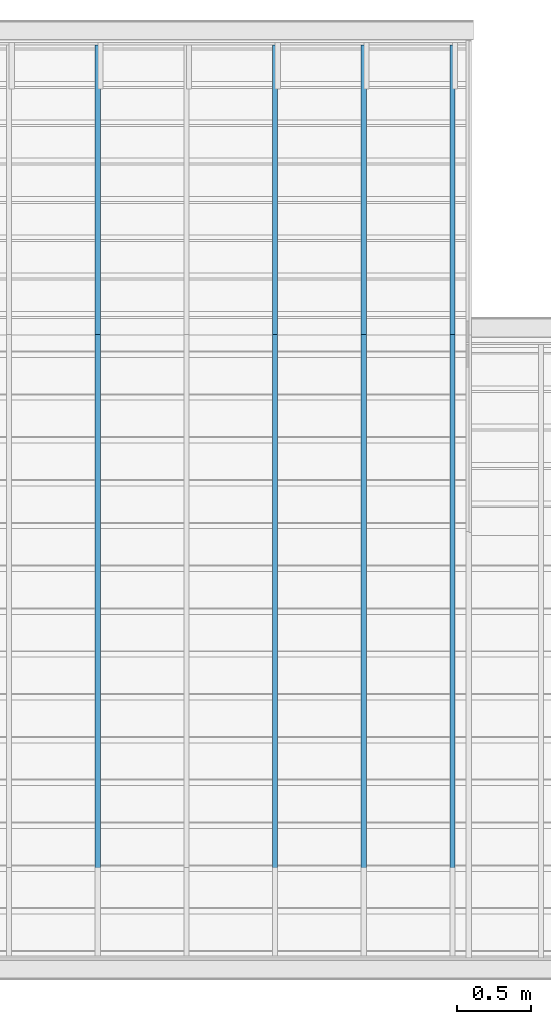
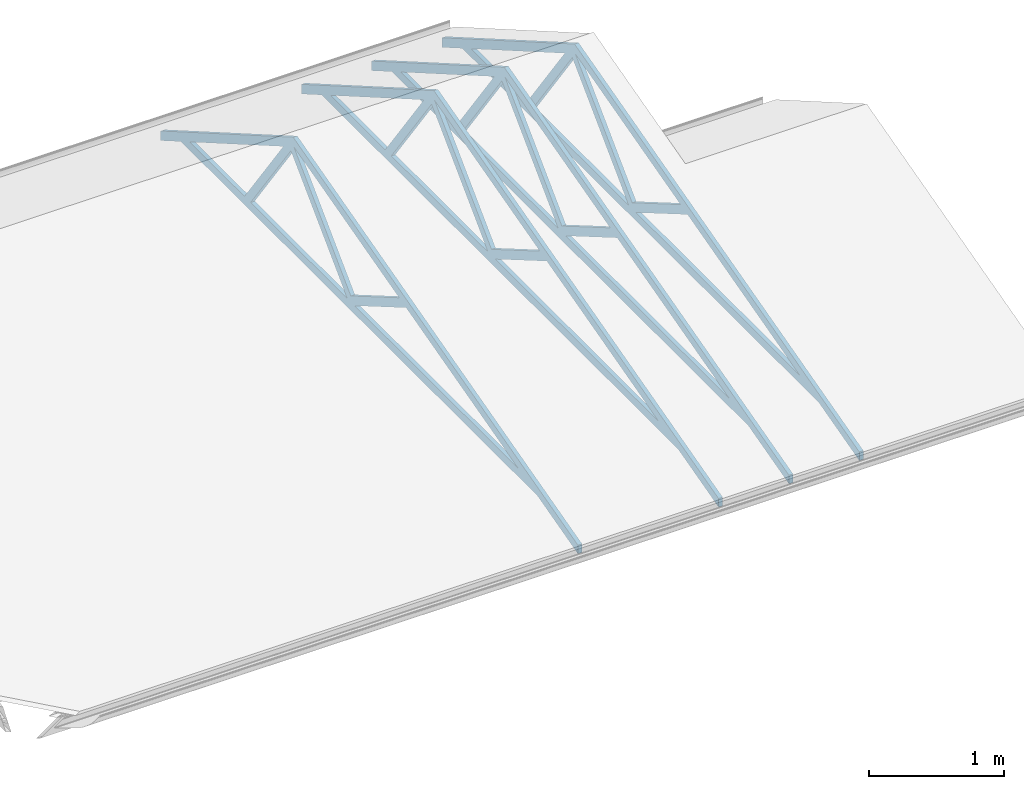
# One storey, part 8 of 12: 4 slabs.
"""IFC2X3 building model written with IfcOpenShell, lengths in millimetres."""

from ifc_helpers import new_model, entity, si_unit, converted_unit, money_unit, direction, frame, origin_with_axes, place, context, subcontext, project, spatial, faceted_brep, material, type_object, element, save


model = new_model("IFC2X3")

# Units and contexts
model_context = context("Model", 3, precision=1e-05, world=origin_with_axes(), true_north=direction((0.0, 1.0)))
body_context = subcontext(model_context, "Body", "Model", "MODEL_VIEW")
ifc_project = project(units=[si_unit("LENGTHUNIT", "METRE", prefix="MILLI"), si_unit("AREAUNIT", "SQUARE_METRE"), si_unit("VOLUMEUNIT", "CUBIC_METRE"), converted_unit("PLANEANGLEUNIT", "DEGREE", entity("IfcPlaneAngleMeasure", 0.0174532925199), si_unit("PLANEANGLEUNIT", "RADIAN"), dimensions=[0, 0, 0, 0, 0, 0, 0]), si_unit("SOLIDANGLEUNIT", "STERADIAN"), money_unit("AUD"), si_unit("TIMEUNIT", "SECOND"), si_unit("MASSUNIT", "GRAM"), si_unit("THERMODYNAMICTEMPERATUREUNIT", "DEGREE_CELSIUS"), si_unit("LUMINOUSINTENSITYUNIT", "LUMEN")], contexts=[model_context])

# Site, building, storey
site_placement = place(None, origin_with_axes())
site = spatial("IfcSite", under=ifc_project, at=site_placement, Name="Lot 1. East Hills", CompositionType="ELEMENT")
building_placement = place(site_placement, origin_with_axes())
building = spatial("IfcBuilding", under=site, at=building_placement, Name="Proposed Units 7 & 8", CompositionType="ELEMENT")
storey_placement = place(building_placement, frame((0.0, 0.0, 8395.0), z_axis=(0.0, 0.0, 1.0), x_axis=(1.0, 0.0, 0.0)))
storey = spatial("IfcBuildingStorey", under=building, at=storey_placement, Name="Roof", CompositionType="ELEMENT", Elevation=8395.0)

# Slabs
ifc_material = material(Name="50 %")
slab_type = type_object("IfcSlabType", Name="Roof Trust large", PredefinedType="NOTDEFINED")
slab_1_placement = place(storey_placement, frame((15755.0, -3.11548540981, 0.0), z_axis=(0.0, 0.0, 1.0), x_axis=(-1.0, 0.0, 0.0)))
element("IfcSlab", 1, at=slab_1_placement, inside=storey, type_object=slab_type, material=ifc_material, Name="TRUST_01 - Roof Trust large - object -", PredefinedType="ROOF", context=body_context, shape_type="Brep", body=[
    faceted_brep([(0.0, 600.020035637, -160.773638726), (0.0, 600.020035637, -160.673638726), (35.0, 600.020035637, -160.673638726), (35.0, 600.020035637, -160.773638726), (0.0, 599.923443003, -160.747757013), (0.0, 0.0966282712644, -0.0259204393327), (0.0, 3.56373446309e-05, -3.87262417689e-05), (0.0, -0.0999643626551, -3.87262417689e-05), (0.0, -5264.89996436, -3.87262399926e-05), (0.0, -5264.99996436, -3.87262399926e-05), (0.0, -5265.08656691, -0.050038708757), (0.0, -5564.91336181, -173.155038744), (0.0, -5564.99996436, -173.205038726), (0.0, -5564.99996436, -173.105038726), (0.0, -5564.99996436, -86.7025387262), (0.0, -5564.99996436, -86.6025387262), (0.0, -5564.91336181, -86.552538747), (0.0, -3606.74656692, 1043.99496129), (0.0, -3606.65996436, 1044.04496127), (0.0, -3606.56337176, 1044.01907945), (0.0, 599.923443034, -83.102056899), (0.0, 600.020035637, -83.1279387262), (0.0, 600.020035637, -83.2279387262), (0.0, -279.899964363, 74.9999612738), (0.0, -279.996556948, 75.0258431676), (0.0, -1937.88337178, 519.25507938), (0.0, -1937.97996436, 519.280961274), (0.0, -1938.06635104, 519.230589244), (0.0, -2699.82357768, 75.0503333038), (0.0, -2699.90996436, 74.9999612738), (0.0, -2699.80996436, 74.9999612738), (0.0, -279.999964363, 74.9999612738), (0.0, -2039.93996436, 546.601961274), (0.0, -2040.03655692, 546.627843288), (0.0, -3595.96337181, 963.539079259), (0.0, -3596.05996436, 963.564961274), (0.0, -3595.98895391, 963.494551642), (0.0, -2755.09097481, 129.711370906), (0.0, -2755.01996436, 129.640961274), (0.0, -2754.93357759, 129.691333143), (0.0, -2040.02635114, 546.551589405), (0.0, -2806.42996436, 74.9999612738), (0.0, -2806.50097476, 75.0703709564), (0.0, -3640.32895396, 901.844551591), (0.0, -3640.39996436, 901.914961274), (0.0, -3640.45835547, 901.833779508), (0.0, -4235.11157326, 75.0811430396), (0.0, -4235.16996436, 74.9999612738), (0.0, -4235.06996436, 74.9999612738), (0.0, -2806.52996436, 74.9999612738), (0.0, -3751.98996436, 873.534961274), (0.0, -3752.07656695, 873.48496135), (0.0, -5135.00936178, 75.0499611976), (0.0, -5135.09596436, 74.9999612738), (0.0, -5134.99596436, 74.9999612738), (0.0, -4326.44996436, 74.9999612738), (0.0, -4326.34996436, 74.9999612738), (0.0, -4326.29157308, 75.0811429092), (0.0, -3752.04835565, 873.453779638), (35.0, 600.020035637, -83.2279387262), (35.0, 600.020035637, -83.1279387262), (35.0, 599.923443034, -83.102056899), (35.0, -3606.56337176, 1044.01907945), (35.0, -3606.65996436, 1044.04496127), (35.0, -3606.74656692, 1043.99496129), (35.0, -5564.91336181, -86.552538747), (35.0, -5564.99996436, -86.6025387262), (35.0, -5564.99996436, -86.7025387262), (35.0, -5564.99996436, -173.105038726), (35.0, -5564.99996436, -173.205038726), (35.0, -5564.91336181, -173.155038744), (35.0, -5265.08656691, -0.050038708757), (35.0, -5264.99996436, -3.87262399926e-05), (35.0, -5264.89996436, -3.87262399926e-05), (35.0, -0.0999643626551, -3.87262417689e-05), (35.0, 3.56373446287e-05, -3.87262417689e-05), (35.0, 0.0966282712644, -0.0259204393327), (35.0, 599.923443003, -160.747757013), (35.0, -279.899964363, 74.9999612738), (35.0, -279.999964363, 74.9999612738), (35.0, -2699.80996436, 74.9999612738), (35.0, -2699.90996436, 74.9999612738), (35.0, -2699.82357768, 75.0503333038), (35.0, -1938.06635104, 519.230589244), (35.0, -1937.97996436, 519.280961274), (35.0, -1937.88337178, 519.25507938), (35.0, -279.996556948, 75.0258431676), (35.0, -2039.93996436, 546.601961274), (35.0, -2040.02635114, 546.551589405), (35.0, -2754.93357759, 129.691333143), (35.0, -2755.01996436, 129.640961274), (35.0, -2755.09097481, 129.711370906), (35.0, -3595.98895391, 963.494551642), (35.0, -3596.05996436, 963.564961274), (35.0, -3595.96337181, 963.539079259), (35.0, -2040.03655692, 546.627843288), (35.0, -2806.42996436, 74.9999612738), (35.0, -2806.52996436, 74.9999612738), (35.0, -4235.06996436, 74.9999612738), (35.0, -4235.16996436, 74.9999612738), (35.0, -4235.11157326, 75.0811430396), (35.0, -3640.45835547, 901.833779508), (35.0, -3640.39996436, 901.914961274), (35.0, -3640.32895396, 901.844551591), (35.0, -2806.50097476, 75.0703709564), (35.0, -3751.98996436, 873.534961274), (35.0, -3752.04835565, 873.453779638), (35.0, -4326.29157308, 75.0811429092), (35.0, -4326.34996436, 74.9999612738), (35.0, -4326.44996436, 74.9999612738), (35.0, -5134.99596436, 74.9999612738), (35.0, -5135.09596436, 74.9999612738), (35.0, -5135.00936178, 75.0499611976), (35.0, -3752.07656695, 873.48496135)], [[[0, 1, 2, 3]], [[0, 4, 5, 6, 7, 8, 9, 10, 11, 12, 13, 14, 15, 16, 17, 18, 19, 20, 21, 22, 1], [23, 24, 25, 26, 27, 28, 29, 30, 31], [32, 33, 34, 35, 36, 37, 38, 39, 40], [41, 42, 43, 44, 45, 46, 47, 48, 49], [50, 51, 52, 53, 54, 55, 56, 57, 58]], [[1, 22, 59, 2]], [[3, 2, 59, 60, 61, 62, 63, 64, 65, 66, 67, 68, 69, 70, 71, 72, 73, 74, 75, 76, 77], [78, 79, 80, 81, 82, 83, 84, 85, 86], [87, 88, 89, 90, 91, 92, 93, 94, 95], [96, 97, 98, 99, 100, 101, 102, 103, 104], [105, 106, 107, 108, 109, 110, 111, 112, 113]], [[4, 0, 3, 77]], [[5, 4, 77, 76]], [[6, 5, 76, 75]], [[7, 6, 75, 74]], [[8, 7, 74, 73]], [[9, 8, 73, 72]], [[10, 9, 72, 71]], [[11, 10, 71, 70]], [[12, 11, 70, 69]], [[13, 12, 69, 68]], [[14, 13, 68, 67]], [[15, 14, 67, 66]], [[16, 15, 66, 65]], [[17, 16, 65, 64]], [[18, 17, 64, 63]], [[19, 18, 63, 62]], [[20, 19, 62, 61]], [[21, 20, 61, 60]], [[22, 21, 60, 59]], [[24, 23, 78, 86]], [[25, 24, 86, 85]], [[26, 25, 85, 84]], [[27, 26, 84, 83]], [[28, 27, 83, 82]], [[29, 28, 82, 81]], [[30, 29, 81, 80]], [[31, 30, 80, 79]], [[23, 31, 79, 78]], [[33, 32, 87, 95]], [[34, 33, 95, 94]], [[35, 34, 94, 93]], [[36, 35, 93, 92]], [[37, 36, 92, 91]], [[38, 37, 91, 90]], [[39, 38, 90, 89]], [[40, 39, 89, 88]], [[32, 40, 88, 87]], [[42, 41, 96, 104]], [[43, 42, 104, 103]], [[44, 43, 103, 102]], [[45, 44, 102, 101]], [[46, 45, 101, 100]], [[47, 46, 100, 99]], [[48, 47, 99, 98]], [[49, 48, 98, 97]], [[41, 49, 97, 96]], [[51, 50, 105, 113]], [[52, 51, 113, 112]], [[53, 52, 112, 111]], [[54, 53, 111, 110]], [[55, 54, 110, 109]], [[56, 55, 109, 108]], [[57, 56, 108, 107]], [[58, 57, 107, 106]], [[50, 58, 106, 105]]]),
])
slab_2_placement = place(storey_placement, frame((15155.0, -3.11548540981, 0.0), z_axis=(0.0, 0.0, 1.0), x_axis=(-1.0, 0.0, 0.0)))
element("IfcSlab", 2, at=slab_2_placement, inside=storey, type_object=slab_type, material=ifc_material, Name="TRUST_02 - Roof Trust large - object -", PredefinedType="ROOF", context=body_context, shape_type="Brep", body=[
    faceted_brep([(0.0, 600.020035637, -160.773638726), (0.0, 600.020035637, -160.673638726), (35.0, 600.020035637, -160.673638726), (35.0, 600.020035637, -160.773638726), (0.0, 599.923443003, -160.747757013), (0.0, 0.0966282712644, -0.0259204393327), (0.0, 3.56373446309e-05, -3.87262417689e-05), (0.0, -0.0999643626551, -3.87262417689e-05), (0.0, -5264.89996436, -3.87262399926e-05), (0.0, -5264.99996436, -3.87262399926e-05), (0.0, -5265.08656691, -0.050038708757), (0.0, -5564.91336181, -173.155038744), (0.0, -5564.99996436, -173.205038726), (0.0, -5564.99996436, -173.105038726), (0.0, -5564.99996436, -86.7025387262), (0.0, -5564.99996436, -86.6025387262), (0.0, -5564.91336181, -86.552538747), (0.0, -3606.74656692, 1043.99496129), (0.0, -3606.65996436, 1044.04496127), (0.0, -3606.56337176, 1044.01907945), (0.0, 599.923443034, -83.102056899), (0.0, 600.020035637, -83.1279387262), (0.0, 600.020035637, -83.2279387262), (0.0, -279.899964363, 74.9999612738), (0.0, -279.996556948, 75.0258431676), (0.0, -1937.88337178, 519.25507938), (0.0, -1937.97996436, 519.280961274), (0.0, -1938.06635104, 519.230589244), (0.0, -2699.82357768, 75.0503333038), (0.0, -2699.90996436, 74.9999612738), (0.0, -2699.80996436, 74.9999612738), (0.0, -279.999964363, 74.9999612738), (0.0, -2039.93996436, 546.601961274), (0.0, -2040.03655692, 546.627843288), (0.0, -3595.96337181, 963.539079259), (0.0, -3596.05996436, 963.564961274), (0.0, -3595.98895391, 963.494551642), (0.0, -2755.09097481, 129.711370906), (0.0, -2755.01996436, 129.640961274), (0.0, -2754.93357759, 129.691333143), (0.0, -2040.02635114, 546.551589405), (0.0, -2806.42996436, 74.9999612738), (0.0, -2806.50097476, 75.0703709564), (0.0, -3640.32895396, 901.844551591), (0.0, -3640.39996436, 901.914961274), (0.0, -3640.45835547, 901.833779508), (0.0, -4235.11157326, 75.0811430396), (0.0, -4235.16996436, 74.9999612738), (0.0, -4235.06996436, 74.9999612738), (0.0, -2806.52996436, 74.9999612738), (0.0, -3751.98996436, 873.534961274), (0.0, -3752.07656695, 873.48496135), (0.0, -5135.00936178, 75.0499611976), (0.0, -5135.09596436, 74.9999612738), (0.0, -5134.99596436, 74.9999612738), (0.0, -4326.44996436, 74.9999612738), (0.0, -4326.34996436, 74.9999612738), (0.0, -4326.29157308, 75.0811429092), (0.0, -3752.04835565, 873.453779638), (35.0, 600.020035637, -83.2279387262), (35.0, 600.020035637, -83.1279387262), (35.0, 599.923443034, -83.102056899), (35.0, -3606.56337176, 1044.01907945), (35.0, -3606.65996436, 1044.04496127), (35.0, -3606.74656692, 1043.99496129), (35.0, -5564.91336181, -86.552538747), (35.0, -5564.99996436, -86.6025387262), (35.0, -5564.99996436, -86.7025387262), (35.0, -5564.99996436, -173.105038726), (35.0, -5564.99996436, -173.205038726), (35.0, -5564.91336181, -173.155038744), (35.0, -5265.08656691, -0.050038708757), (35.0, -5264.99996436, -3.87262399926e-05), (35.0, -5264.89996436, -3.87262399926e-05), (35.0, -0.0999643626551, -3.87262417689e-05), (35.0, 3.56373446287e-05, -3.87262417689e-05), (35.0, 0.0966282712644, -0.0259204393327), (35.0, 599.923443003, -160.747757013), (35.0, -279.899964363, 74.9999612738), (35.0, -279.999964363, 74.9999612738), (35.0, -2699.80996436, 74.9999612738), (35.0, -2699.90996436, 74.9999612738), (35.0, -2699.82357768, 75.0503333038), (35.0, -1938.06635104, 519.230589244), (35.0, -1937.97996436, 519.280961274), (35.0, -1937.88337178, 519.25507938), (35.0, -279.996556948, 75.0258431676), (35.0, -2039.93996436, 546.601961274), (35.0, -2040.02635114, 546.551589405), (35.0, -2754.93357759, 129.691333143), (35.0, -2755.01996436, 129.640961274), (35.0, -2755.09097481, 129.711370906), (35.0, -3595.98895391, 963.494551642), (35.0, -3596.05996436, 963.564961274), (35.0, -3595.96337181, 963.539079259), (35.0, -2040.03655692, 546.627843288), (35.0, -2806.42996436, 74.9999612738), (35.0, -2806.52996436, 74.9999612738), (35.0, -4235.06996436, 74.9999612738), (35.0, -4235.16996436, 74.9999612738), (35.0, -4235.11157326, 75.0811430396), (35.0, -3640.45835547, 901.833779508), (35.0, -3640.39996436, 901.914961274), (35.0, -3640.32895396, 901.844551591), (35.0, -2806.50097476, 75.0703709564), (35.0, -3751.98996436, 873.534961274), (35.0, -3752.04835565, 873.453779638), (35.0, -4326.29157308, 75.0811429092), (35.0, -4326.34996436, 74.9999612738), (35.0, -4326.44996436, 74.9999612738), (35.0, -5134.99596436, 74.9999612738), (35.0, -5135.09596436, 74.9999612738), (35.0, -5135.00936178, 75.0499611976), (35.0, -3752.07656695, 873.48496135)], [[[0, 1, 2, 3]], [[0, 4, 5, 6, 7, 8, 9, 10, 11, 12, 13, 14, 15, 16, 17, 18, 19, 20, 21, 22, 1], [23, 24, 25, 26, 27, 28, 29, 30, 31], [32, 33, 34, 35, 36, 37, 38, 39, 40], [41, 42, 43, 44, 45, 46, 47, 48, 49], [50, 51, 52, 53, 54, 55, 56, 57, 58]], [[1, 22, 59, 2]], [[3, 2, 59, 60, 61, 62, 63, 64, 65, 66, 67, 68, 69, 70, 71, 72, 73, 74, 75, 76, 77], [78, 79, 80, 81, 82, 83, 84, 85, 86], [87, 88, 89, 90, 91, 92, 93, 94, 95], [96, 97, 98, 99, 100, 101, 102, 103, 104], [105, 106, 107, 108, 109, 110, 111, 112, 113]], [[4, 0, 3, 77]], [[5, 4, 77, 76]], [[6, 5, 76, 75]], [[7, 6, 75, 74]], [[8, 7, 74, 73]], [[9, 8, 73, 72]], [[10, 9, 72, 71]], [[11, 10, 71, 70]], [[12, 11, 70, 69]], [[13, 12, 69, 68]], [[14, 13, 68, 67]], [[15, 14, 67, 66]], [[16, 15, 66, 65]], [[17, 16, 65, 64]], [[18, 17, 64, 63]], [[19, 18, 63, 62]], [[20, 19, 62, 61]], [[21, 20, 61, 60]], [[22, 21, 60, 59]], [[24, 23, 78, 86]], [[25, 24, 86, 85]], [[26, 25, 85, 84]], [[27, 26, 84, 83]], [[28, 27, 83, 82]], [[29, 28, 82, 81]], [[30, 29, 81, 80]], [[31, 30, 80, 79]], [[23, 31, 79, 78]], [[33, 32, 87, 95]], [[34, 33, 95, 94]], [[35, 34, 94, 93]], [[36, 35, 93, 92]], [[37, 36, 92, 91]], [[38, 37, 91, 90]], [[39, 38, 90, 89]], [[40, 39, 89, 88]], [[32, 40, 88, 87]], [[42, 41, 96, 104]], [[43, 42, 104, 103]], [[44, 43, 103, 102]], [[45, 44, 102, 101]], [[46, 45, 101, 100]], [[47, 46, 100, 99]], [[48, 47, 99, 98]], [[49, 48, 98, 97]], [[41, 49, 97, 96]], [[51, 50, 105, 113]], [[52, 51, 113, 112]], [[53, 52, 112, 111]], [[54, 53, 111, 110]], [[55, 54, 110, 109]], [[56, 55, 109, 108]], [[57, 56, 108, 107]], [[58, 57, 107, 106]], [[50, 58, 106, 105]]]),
])
slab_3_placement = place(storey_placement, frame((14555.0, -3.11548540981, 0.0), z_axis=(0.0, 0.0, 1.0), x_axis=(-1.0, 0.0, 0.0)))
element("IfcSlab", 3, at=slab_3_placement, inside=storey, type_object=slab_type, material=ifc_material, Name="TRUST_03 - Roof Trust large - object -", PredefinedType="ROOF", context=body_context, shape_type="Brep", body=[
    faceted_brep([(0.0, 600.020035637, -160.773638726), (0.0, 600.020035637, -160.673638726), (35.0, 600.020035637, -160.673638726), (35.0, 600.020035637, -160.773638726), (0.0, 599.923443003, -160.747757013), (0.0, 0.0966282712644, -0.0259204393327), (0.0, 3.56373446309e-05, -3.87262417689e-05), (0.0, -0.0999643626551, -3.87262417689e-05), (0.0, -5264.89996436, -3.87262399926e-05), (0.0, -5264.99996436, -3.87262399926e-05), (0.0, -5265.08656691, -0.050038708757), (0.0, -5564.91336181, -173.155038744), (0.0, -5564.99996436, -173.205038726), (0.0, -5564.99996436, -173.105038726), (0.0, -5564.99996436, -86.7025387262), (0.0, -5564.99996436, -86.6025387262), (0.0, -5564.91336181, -86.552538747), (0.0, -3606.74656692, 1043.99496129), (0.0, -3606.65996436, 1044.04496127), (0.0, -3606.56337176, 1044.01907945), (0.0, 599.923443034, -83.102056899), (0.0, 600.020035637, -83.1279387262), (0.0, 600.020035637, -83.2279387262), (0.0, -279.899964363, 74.9999612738), (0.0, -279.996556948, 75.0258431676), (0.0, -1937.88337178, 519.25507938), (0.0, -1937.97996436, 519.280961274), (0.0, -1938.06635104, 519.230589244), (0.0, -2699.82357768, 75.0503333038), (0.0, -2699.90996436, 74.9999612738), (0.0, -2699.80996436, 74.9999612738), (0.0, -279.999964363, 74.9999612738), (0.0, -2039.93996436, 546.601961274), (0.0, -2040.03655692, 546.627843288), (0.0, -3595.96337181, 963.539079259), (0.0, -3596.05996436, 963.564961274), (0.0, -3595.98895391, 963.494551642), (0.0, -2755.09097481, 129.711370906), (0.0, -2755.01996436, 129.640961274), (0.0, -2754.93357759, 129.691333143), (0.0, -2040.02635114, 546.551589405), (0.0, -2806.42996436, 74.9999612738), (0.0, -2806.50097476, 75.0703709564), (0.0, -3640.32895396, 901.844551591), (0.0, -3640.39996436, 901.914961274), (0.0, -3640.45835547, 901.833779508), (0.0, -4235.11157326, 75.0811430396), (0.0, -4235.16996436, 74.9999612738), (0.0, -4235.06996436, 74.9999612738), (0.0, -2806.52996436, 74.9999612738), (0.0, -3751.98996436, 873.534961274), (0.0, -3752.07656695, 873.48496135), (0.0, -5135.00936178, 75.0499611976), (0.0, -5135.09596436, 74.9999612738), (0.0, -5134.99596436, 74.9999612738), (0.0, -4326.44996436, 74.9999612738), (0.0, -4326.34996436, 74.9999612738), (0.0, -4326.29157308, 75.0811429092), (0.0, -3752.04835565, 873.453779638), (35.0, 600.020035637, -83.2279387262), (35.0, 600.020035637, -83.1279387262), (35.0, 599.923443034, -83.102056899), (35.0, -3606.56337176, 1044.01907945), (35.0, -3606.65996436, 1044.04496127), (35.0, -3606.74656692, 1043.99496129), (35.0, -5564.91336181, -86.552538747), (35.0, -5564.99996436, -86.6025387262), (35.0, -5564.99996436, -86.7025387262), (35.0, -5564.99996436, -173.105038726), (35.0, -5564.99996436, -173.205038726), (35.0, -5564.91336181, -173.155038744), (35.0, -5265.08656691, -0.050038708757), (35.0, -5264.99996436, -3.87262399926e-05), (35.0, -5264.89996436, -3.87262399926e-05), (35.0, -0.0999643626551, -3.87262417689e-05), (35.0, 3.56373446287e-05, -3.87262417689e-05), (35.0, 0.0966282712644, -0.0259204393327), (35.0, 599.923443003, -160.747757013), (35.0, -279.899964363, 74.9999612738), (35.0, -279.999964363, 74.9999612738), (35.0, -2699.80996436, 74.9999612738), (35.0, -2699.90996436, 74.9999612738), (35.0, -2699.82357768, 75.0503333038), (35.0, -1938.06635104, 519.230589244), (35.0, -1937.97996436, 519.280961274), (35.0, -1937.88337178, 519.25507938), (35.0, -279.996556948, 75.0258431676), (35.0, -2039.93996436, 546.601961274), (35.0, -2040.02635114, 546.551589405), (35.0, -2754.93357759, 129.691333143), (35.0, -2755.01996436, 129.640961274), (35.0, -2755.09097481, 129.711370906), (35.0, -3595.98895391, 963.494551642), (35.0, -3596.05996436, 963.564961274), (35.0, -3595.96337181, 963.539079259), (35.0, -2040.03655692, 546.627843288), (35.0, -2806.42996436, 74.9999612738), (35.0, -2806.52996436, 74.9999612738), (35.0, -4235.06996436, 74.9999612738), (35.0, -4235.16996436, 74.9999612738), (35.0, -4235.11157326, 75.0811430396), (35.0, -3640.45835547, 901.833779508), (35.0, -3640.39996436, 901.914961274), (35.0, -3640.32895396, 901.844551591), (35.0, -2806.50097476, 75.0703709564), (35.0, -3751.98996436, 873.534961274), (35.0, -3752.04835565, 873.453779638), (35.0, -4326.29157308, 75.0811429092), (35.0, -4326.34996436, 74.9999612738), (35.0, -4326.44996436, 74.9999612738), (35.0, -5134.99596436, 74.9999612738), (35.0, -5135.09596436, 74.9999612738), (35.0, -5135.00936178, 75.0499611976), (35.0, -3752.07656695, 873.48496135)], [[[0, 1, 2, 3]], [[0, 4, 5, 6, 7, 8, 9, 10, 11, 12, 13, 14, 15, 16, 17, 18, 19, 20, 21, 22, 1], [23, 24, 25, 26, 27, 28, 29, 30, 31], [32, 33, 34, 35, 36, 37, 38, 39, 40], [41, 42, 43, 44, 45, 46, 47, 48, 49], [50, 51, 52, 53, 54, 55, 56, 57, 58]], [[1, 22, 59, 2]], [[3, 2, 59, 60, 61, 62, 63, 64, 65, 66, 67, 68, 69, 70, 71, 72, 73, 74, 75, 76, 77], [78, 79, 80, 81, 82, 83, 84, 85, 86], [87, 88, 89, 90, 91, 92, 93, 94, 95], [96, 97, 98, 99, 100, 101, 102, 103, 104], [105, 106, 107, 108, 109, 110, 111, 112, 113]], [[4, 0, 3, 77]], [[5, 4, 77, 76]], [[6, 5, 76, 75]], [[7, 6, 75, 74]], [[8, 7, 74, 73]], [[9, 8, 73, 72]], [[10, 9, 72, 71]], [[11, 10, 71, 70]], [[12, 11, 70, 69]], [[13, 12, 69, 68]], [[14, 13, 68, 67]], [[15, 14, 67, 66]], [[16, 15, 66, 65]], [[17, 16, 65, 64]], [[18, 17, 64, 63]], [[19, 18, 63, 62]], [[20, 19, 62, 61]], [[21, 20, 61, 60]], [[22, 21, 60, 59]], [[24, 23, 78, 86]], [[25, 24, 86, 85]], [[26, 25, 85, 84]], [[27, 26, 84, 83]], [[28, 27, 83, 82]], [[29, 28, 82, 81]], [[30, 29, 81, 80]], [[31, 30, 80, 79]], [[23, 31, 79, 78]], [[33, 32, 87, 95]], [[34, 33, 95, 94]], [[35, 34, 94, 93]], [[36, 35, 93, 92]], [[37, 36, 92, 91]], [[38, 37, 91, 90]], [[39, 38, 90, 89]], [[40, 39, 89, 88]], [[32, 40, 88, 87]], [[42, 41, 96, 104]], [[43, 42, 104, 103]], [[44, 43, 103, 102]], [[45, 44, 102, 101]], [[46, 45, 101, 100]], [[47, 46, 100, 99]], [[48, 47, 99, 98]], [[49, 48, 98, 97]], [[41, 49, 97, 96]], [[51, 50, 105, 113]], [[52, 51, 113, 112]], [[53, 52, 112, 111]], [[54, 53, 111, 110]], [[55, 54, 110, 109]], [[56, 55, 109, 108]], [[57, 56, 108, 107]], [[58, 57, 107, 106]], [[50, 58, 106, 105]]]),
])
slab_4_placement = place(storey_placement, frame((13355.0, -3.11548540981, 0.0), z_axis=(0.0, 0.0, 1.0), x_axis=(-1.0, 0.0, 0.0)))
element("IfcSlab", 4, at=slab_4_placement, inside=storey, type_object=slab_type, material=ifc_material, Name="TRUST_05 - Roof Trust large - object -", PredefinedType="ROOF", context=body_context, shape_type="Brep", body=[
    faceted_brep([(0.0, 600.020035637, -160.773638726), (0.0, 600.020035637, -160.673638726), (35.0, 600.020035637, -160.673638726), (35.0, 600.020035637, -160.773638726), (0.0, 599.923443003, -160.747757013), (0.0, 0.0966282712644, -0.0259204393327), (0.0, 3.56373446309e-05, -3.87262417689e-05), (0.0, -0.0999643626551, -3.87262417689e-05), (0.0, -5264.89996436, -3.87262399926e-05), (0.0, -5264.99996436, -3.87262399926e-05), (0.0, -5265.08656691, -0.050038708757), (0.0, -5564.91336181, -173.155038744), (0.0, -5564.99996436, -173.205038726), (0.0, -5564.99996436, -173.105038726), (0.0, -5564.99996436, -86.7025387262), (0.0, -5564.99996436, -86.6025387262), (0.0, -5564.91336181, -86.552538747), (0.0, -3606.74656692, 1043.99496129), (0.0, -3606.65996436, 1044.04496127), (0.0, -3606.56337176, 1044.01907945), (0.0, 599.923443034, -83.102056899), (0.0, 600.020035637, -83.1279387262), (0.0, 600.020035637, -83.2279387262), (0.0, -279.899964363, 74.9999612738), (0.0, -279.996556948, 75.0258431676), (0.0, -1937.88337178, 519.25507938), (0.0, -1937.97996436, 519.280961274), (0.0, -1938.06635104, 519.230589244), (0.0, -2699.82357768, 75.0503333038), (0.0, -2699.90996436, 74.9999612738), (0.0, -2699.80996436, 74.9999612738), (0.0, -279.999964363, 74.9999612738), (0.0, -2039.93996436, 546.601961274), (0.0, -2040.03655692, 546.627843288), (0.0, -3595.96337181, 963.539079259), (0.0, -3596.05996436, 963.564961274), (0.0, -3595.98895391, 963.494551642), (0.0, -2755.09097481, 129.711370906), (0.0, -2755.01996436, 129.640961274), (0.0, -2754.93357759, 129.691333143), (0.0, -2040.02635114, 546.551589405), (0.0, -2806.42996436, 74.9999612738), (0.0, -2806.50097476, 75.0703709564), (0.0, -3640.32895396, 901.844551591), (0.0, -3640.39996436, 901.914961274), (0.0, -3640.45835547, 901.833779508), (0.0, -4235.11157326, 75.0811430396), (0.0, -4235.16996436, 74.9999612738), (0.0, -4235.06996436, 74.9999612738), (0.0, -2806.52996436, 74.9999612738), (0.0, -3751.98996436, 873.534961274), (0.0, -3752.07656695, 873.48496135), (0.0, -5135.00936178, 75.0499611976), (0.0, -5135.09596436, 74.9999612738), (0.0, -5134.99596436, 74.9999612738), (0.0, -4326.44996436, 74.9999612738), (0.0, -4326.34996436, 74.9999612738), (0.0, -4326.29157308, 75.0811429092), (0.0, -3752.04835565, 873.453779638), (35.0, 600.020035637, -83.2279387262), (35.0, 600.020035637, -83.1279387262), (35.0, 599.923443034, -83.102056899), (35.0, -3606.56337176, 1044.01907945), (35.0, -3606.65996436, 1044.04496127), (35.0, -3606.74656692, 1043.99496129), (35.0, -5564.91336181, -86.552538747), (35.0, -5564.99996436, -86.6025387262), (35.0, -5564.99996436, -86.7025387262), (35.0, -5564.99996436, -173.105038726), (35.0, -5564.99996436, -173.205038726), (35.0, -5564.91336181, -173.155038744), (35.0, -5265.08656691, -0.050038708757), (35.0, -5264.99996436, -3.87262399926e-05), (35.0, -5264.89996436, -3.87262399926e-05), (35.0, -0.0999643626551, -3.87262417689e-05), (35.0, 3.56373446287e-05, -3.87262417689e-05), (35.0, 0.0966282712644, -0.0259204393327), (35.0, 599.923443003, -160.747757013), (35.0, -279.899964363, 74.9999612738), (35.0, -279.999964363, 74.9999612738), (35.0, -2699.80996436, 74.9999612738), (35.0, -2699.90996436, 74.9999612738), (35.0, -2699.82357768, 75.0503333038), (35.0, -1938.06635104, 519.230589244), (35.0, -1937.97996436, 519.280961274), (35.0, -1937.88337178, 519.25507938), (35.0, -279.996556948, 75.0258431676), (35.0, -2039.93996436, 546.601961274), (35.0, -2040.02635114, 546.551589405), (35.0, -2754.93357759, 129.691333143), (35.0, -2755.01996436, 129.640961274), (35.0, -2755.09097481, 129.711370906), (35.0, -3595.98895391, 963.494551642), (35.0, -3596.05996436, 963.564961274), (35.0, -3595.96337181, 963.539079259), (35.0, -2040.03655692, 546.627843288), (35.0, -2806.42996436, 74.9999612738), (35.0, -2806.52996436, 74.9999612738), (35.0, -4235.06996436, 74.9999612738), (35.0, -4235.16996436, 74.9999612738), (35.0, -4235.11157326, 75.0811430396), (35.0, -3640.45835547, 901.833779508), (35.0, -3640.39996436, 901.914961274), (35.0, -3640.32895396, 901.844551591), (35.0, -2806.50097476, 75.0703709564), (35.0, -3751.98996436, 873.534961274), (35.0, -3752.04835565, 873.453779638), (35.0, -4326.29157308, 75.0811429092), (35.0, -4326.34996436, 74.9999612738), (35.0, -4326.44996436, 74.9999612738), (35.0, -5134.99596436, 74.9999612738), (35.0, -5135.09596436, 74.9999612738), (35.0, -5135.00936178, 75.0499611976), (35.0, -3752.07656695, 873.48496135)], [[[0, 1, 2, 3]], [[0, 4, 5, 6, 7, 8, 9, 10, 11, 12, 13, 14, 15, 16, 17, 18, 19, 20, 21, 22, 1], [23, 24, 25, 26, 27, 28, 29, 30, 31], [32, 33, 34, 35, 36, 37, 38, 39, 40], [41, 42, 43, 44, 45, 46, 47, 48, 49], [50, 51, 52, 53, 54, 55, 56, 57, 58]], [[1, 22, 59, 2]], [[3, 2, 59, 60, 61, 62, 63, 64, 65, 66, 67, 68, 69, 70, 71, 72, 73, 74, 75, 76, 77], [78, 79, 80, 81, 82, 83, 84, 85, 86], [87, 88, 89, 90, 91, 92, 93, 94, 95], [96, 97, 98, 99, 100, 101, 102, 103, 104], [105, 106, 107, 108, 109, 110, 111, 112, 113]], [[4, 0, 3, 77]], [[5, 4, 77, 76]], [[6, 5, 76, 75]], [[7, 6, 75, 74]], [[8, 7, 74, 73]], [[9, 8, 73, 72]], [[10, 9, 72, 71]], [[11, 10, 71, 70]], [[12, 11, 70, 69]], [[13, 12, 69, 68]], [[14, 13, 68, 67]], [[15, 14, 67, 66]], [[16, 15, 66, 65]], [[17, 16, 65, 64]], [[18, 17, 64, 63]], [[19, 18, 63, 62]], [[20, 19, 62, 61]], [[21, 20, 61, 60]], [[22, 21, 60, 59]], [[24, 23, 78, 86]], [[25, 24, 86, 85]], [[26, 25, 85, 84]], [[27, 26, 84, 83]], [[28, 27, 83, 82]], [[29, 28, 82, 81]], [[30, 29, 81, 80]], [[31, 30, 80, 79]], [[23, 31, 79, 78]], [[33, 32, 87, 95]], [[34, 33, 95, 94]], [[35, 34, 94, 93]], [[36, 35, 93, 92]], [[37, 36, 92, 91]], [[38, 37, 91, 90]], [[39, 38, 90, 89]], [[40, 39, 89, 88]], [[32, 40, 88, 87]], [[42, 41, 96, 104]], [[43, 42, 104, 103]], [[44, 43, 103, 102]], [[45, 44, 102, 101]], [[46, 45, 101, 100]], [[47, 46, 100, 99]], [[48, 47, 99, 98]], [[49, 48, 98, 97]], [[41, 49, 97, 96]], [[51, 50, 105, 113]], [[52, 51, 113, 112]], [[53, 52, 112, 111]], [[54, 53, 111, 110]], [[55, 54, 110, 109]], [[56, 55, 109, 108]], [[57, 56, 108, 107]], [[58, 57, 107, 106]], [[50, 58, 106, 105]]]),
])

save(model, "model.ifc")
